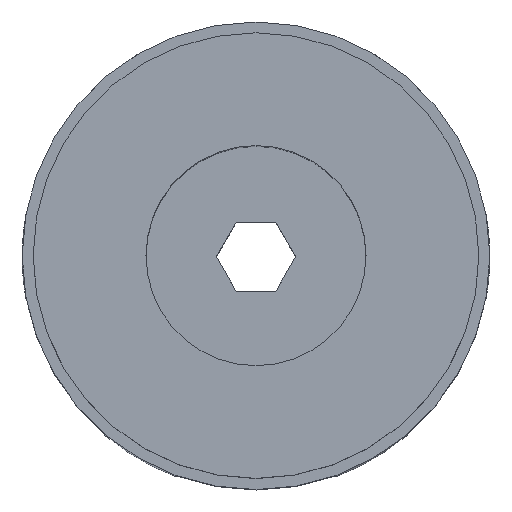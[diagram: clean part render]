
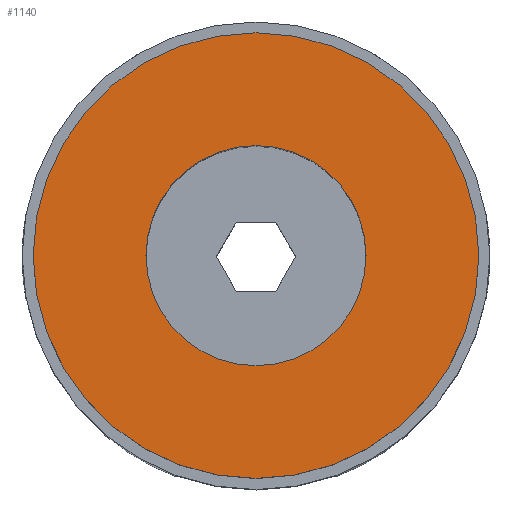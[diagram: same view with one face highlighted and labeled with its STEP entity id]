
A CAD part, top view. The second image highlights one B-rep face of the part: STEP entity #1140.
In plain terms, the highlighted planar face has unit normal (0, 0, 1).
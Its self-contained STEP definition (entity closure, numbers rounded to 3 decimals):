
#54 = DIRECTION ( 'NONE',  ( -1., 0., 0. ) ) ;
#76 = DIRECTION ( 'NONE',  ( -1., 0., 0. ) ) ;
#88 = CARTESIAN_POINT ( 'NONE',  ( 0., 0., 6.25 ) ) ;
#113 = CARTESIAN_POINT ( 'NONE',  ( 0., 0., 6.25 ) ) ;
#177 = CIRCLE ( 'NONE', #1859, 2. ) ;
#187 = CARTESIAN_POINT ( 'NONE',  ( -4.05, 0., 6.25 ) ) ;
#203 = AXIS2_PLACEMENT_3D ( 'NONE', #88, #1540, #290 ) ;
#241 = VERTEX_POINT ( 'NONE', #733 ) ;
#243 = EDGE_CURVE ( 'NONE', #638, #241, #177, .T. ) ;
#290 = DIRECTION ( 'NONE',  ( -1., 0., 0. ) ) ;
#336 = CIRCLE ( 'NONE', #1709, 2. ) ;
#418 = CARTESIAN_POINT ( 'NONE',  ( 0., 0., 6.25 ) ) ;
#477 = EDGE_CURVE ( 'NONE', #1820, #1173, #1931, .T. ) ;
#538 = DIRECTION ( 'NONE',  ( 0., 0., -1. ) ) ;
#612 = ORIENTED_EDGE ( 'NONE', *, *, #2638, .F. ) ;
#630 = AXIS2_PLACEMENT_3D ( 'NONE', #993, #538, #76 ) ;
#638 = VERTEX_POINT ( 'NONE', #2091 ) ;
#669 = DIRECTION ( 'NONE',  ( 0., 0., -1. ) ) ;
#733 = CARTESIAN_POINT ( 'NONE',  ( 2., 0., 6.25 ) ) ;
#993 = CARTESIAN_POINT ( 'NONE',  ( 0., 0., 6.25 ) ) ;
#1037 = EDGE_LOOP ( 'NONE', ( #612, #2325 ) ) ;
#1054 = DIRECTION ( 'NONE',  ( -1., 0., 0. ) ) ;
#1104 = CARTESIAN_POINT ( 'NONE',  ( 4.05, 0., 6.25 ) ) ;
#1131 = FACE_BOUND ( 'NONE', #2442, .T. ) ;
#1140 = ADVANCED_FACE ( 'NONE', ( #2391, #1131 ), #2225, .F. ) ;
#1159 = ORIENTED_EDGE ( 'NONE', *, *, #243, .T. ) ;
#1173 = VERTEX_POINT ( 'NONE', #187 ) ;
#1180 = ORIENTED_EDGE ( 'NONE', *, *, #1295, .T. ) ;
#1295 = EDGE_CURVE ( 'NONE', #241, #638, #336, .T. ) ;
#1442 = DIRECTION ( 'NONE',  ( -1., 0., 0. ) ) ;
#1540 = DIRECTION ( 'NONE',  ( 0., 0., -1. ) ) ;
#1590 = CIRCLE ( 'NONE', #203, 4.05 ) ;
#1689 = DIRECTION ( 'NONE',  ( 0., 0., -1. ) ) ;
#1709 = AXIS2_PLACEMENT_3D ( 'NONE', #418, #1689, #1442 ) ;
#1779 = DIRECTION ( 'NONE',  ( 0., 0., -1. ) ) ;
#1796 = AXIS2_PLACEMENT_3D ( 'NONE', #2373, #1779, #54 ) ;
#1820 = VERTEX_POINT ( 'NONE', #1104 ) ;
#1859 = AXIS2_PLACEMENT_3D ( 'NONE', #113, #669, #1054 ) ;
#1931 = CIRCLE ( 'NONE', #630, 4.05 ) ;
#2091 = CARTESIAN_POINT ( 'NONE',  ( -2., 0., 6.25 ) ) ;
#2225 = PLANE ( 'NONE',  #1796 ) ;
#2325 = ORIENTED_EDGE ( 'NONE', *, *, #477, .F. ) ;
#2373 = CARTESIAN_POINT ( 'NONE',  ( 2., 0., 6.25 ) ) ;
#2391 = FACE_OUTER_BOUND ( 'NONE', #1037, .T. ) ;
#2442 = EDGE_LOOP ( 'NONE', ( #1159, #1180 ) ) ;
#2638 = EDGE_CURVE ( 'NONE', #1173, #1820, #1590, .T. ) ;
